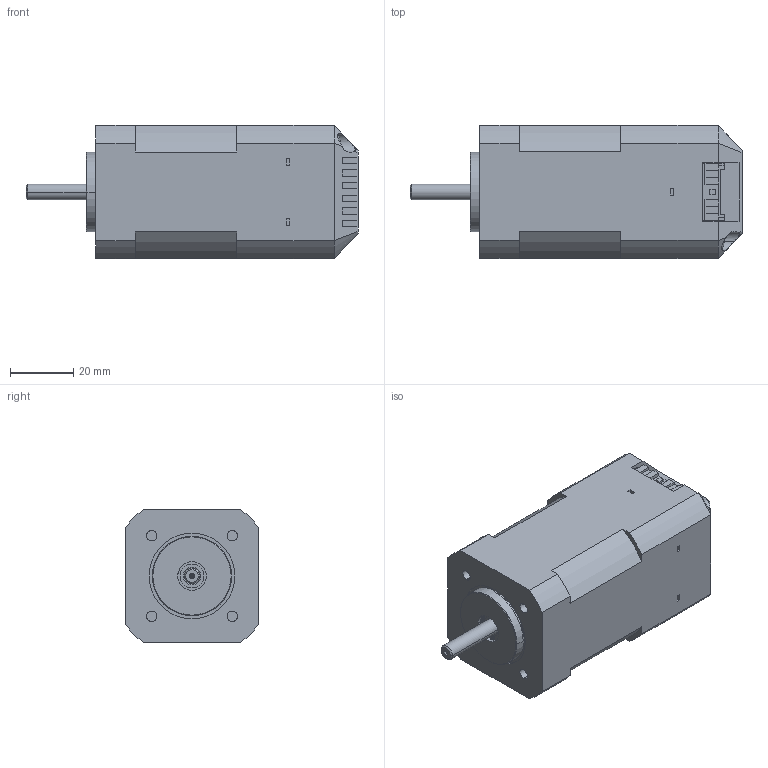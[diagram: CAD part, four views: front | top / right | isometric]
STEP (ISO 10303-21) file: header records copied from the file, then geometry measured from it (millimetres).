
FILE_DESCRIPTION((''),'2;1');
FILE_NAME('3_1_02_042_1545X3_SW0001','2024-10-15T16:01:53',('huangxue'),(''),'CREO PARAMETRIC BY PTC INC, 2017110','CREO PARAMETRIC BY PTC INC, 2017110','');
FILE_SCHEMA(('CONFIG_CONTROL_DESIGN'));
Products named in the file (1): 3_1_02_042_1545X3_SW0001
Bounding box: 104.8 x 42 x 42 mm (x, y, z)
Volume: 86146.9 mm3; surface area: 77025 mm2
Topology: 2 solids, 2 shells, 3219 faces, 8771 edges, 5685 vertices
Faces by surface type: plane 2510, cylinder 584, cone 67, torus 27, sphere 21, bspline 10
Entity records: 102081 total; most frequent: CARTESIAN_POINT 19343, ORIENTED_EDGE 17534, DIRECTION 16751, EDGE_CURVE 8767, VECTOR 6847, LINE 6847, VERTEX_POINT 5684, AXIS2_PLACEMENT_3D 4952
